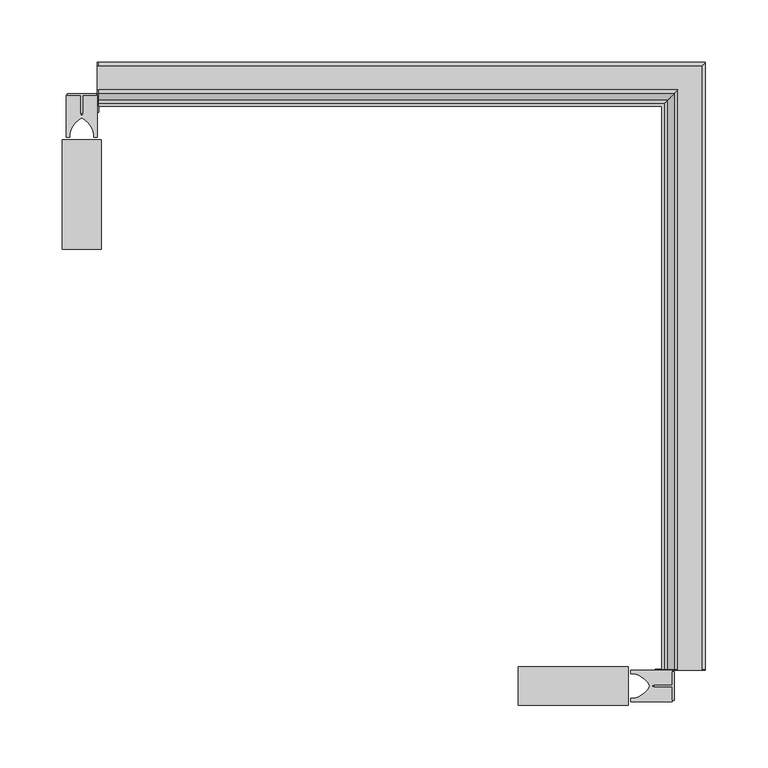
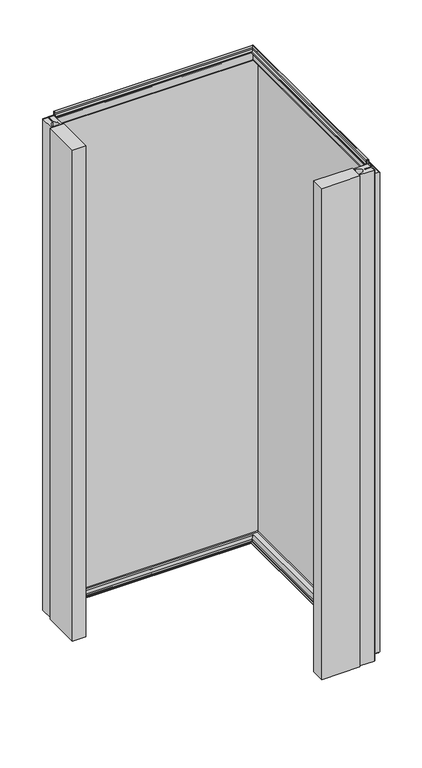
"""IFC4 building model written with IfcOpenShell, lengths in millimetres: plate geometry, Угловой модуль Fronttop : Угловой модуль Fronttop 150/1200."""

from ifc_helpers import new_model, si_unit, point, frame, frame_2d, origin, origin_with_axes, place, context, project, spatial, polyline, circle_curve, ellipse_curve, trimmed, segment, composite_curve, outline, extrude, source, transform, mapped, element, save
from ifc_brep_helpers import plane_surface, cylinder_surface, revolved_surface, advanced_brep


def plate_e059e824(model_context):
    return source(origin(), model_context, "Body", "SolidModel", [
        extrude(outline(polyline([(225.0, -338.4948846), (225.0, -361.5051154), (223.5, -361.5051154), (223.5, -350.6502496), (209.0759655, -350.6502496), (209.0759655, -349.35), (223.5, -349.35), (223.5, -338.4948846), (225.0, -338.4948846)])), origin_with_axes(), (0.0, 0.0, 1.0), 1200.0),
        extrude(outline(composite_curve([segment(polyline([(223.5, -337.4998455), (223.5, -349.25), (207.5, -349.25), (207.5, -350.75), (223.5, -350.75), (223.5, -362.5001545), (190.0, -362.5001545), (190.0, -359.75), (192.5, -359.75)]), True, "CONTINUOUS"), segment(trimmed(circle_curve(frame_2d((189.3183984, -341.9661979)), 18.0661619), [point((192.5, -359.75))], [point((205.5, -350.0))], True, "CARTESIAN"), True, "CONTINUOUS"), segment(trimmed(circle_curve(frame_2d((189.3183984, -358.0338021)), 18.0661619), [point((205.5, -350.0))], [point((192.5, -340.25))], True, "CARTESIAN"), True, "CONTINUOUS"), segment(polyline([(192.5, -340.25), (190.0, -340.25), (190.0, -337.4998455), (223.5, -337.4998455)]), True, "CONTINUOUS")], self_intersect=False)), origin_with_axes(), (0.0, 0.0, 1.0), 1200.0),
        extrude(outline(polyline([(100.0, -365.5), (100.0, -334.5), (188.0, -334.5), (188.0, -365.5), (100.0, -365.5)])), origin_with_axes(), (0.0, 0.0, 1.0), 1200.0),
        extrude(outline(polyline([(-261.5051154, 125.0), (-238.4948846, 125.0), (-238.4948846, 123.5), (-249.3497504, 123.5), (-249.3497504, 109.0759655), (-250.65, 109.0759655), (-250.65, 123.5), (-261.5051154, 123.5), (-261.5051154, 125.0)])), origin_with_axes(), (0.0, 0.0, 1.0), 1200.0),
        extrude(outline(composite_curve([segment(polyline([(-262.5001545, 123.5), (-250.75, 123.5), (-250.75, 107.5), (-249.25, 107.5), (-249.25, 123.5), (-237.4998455, 123.5), (-237.4998455, 90.0), (-240.25, 90.0), (-240.25, 92.5)]), True, "CONTINUOUS"), segment(trimmed(circle_curve(frame_2d((-258.0338021, 89.3183984)), 18.0661619), [point((-240.25, 92.5))], [point((-250.0, 105.5))], True, "CARTESIAN"), True, "CONTINUOUS"), segment(trimmed(circle_curve(frame_2d((-241.9661979, 89.3183984)), 18.0661619), [point((-250.0, 105.5))], [point((-259.75, 92.5))], True, "CARTESIAN"), True, "CONTINUOUS"), segment(polyline([(-259.75, 92.5), (-259.75, 90.0), (-262.5001545, 90.0), (-262.5001545, 123.5)]), True, "CONTINUOUS")], self_intersect=False)), origin_with_axes(), (0.0, 0.0, 1.0), 1200.0),
        extrude(outline(polyline([(-234.5, 0.0), (-265.5, 0.0), (-265.5, 88.0), (-234.5, 88.0), (-234.5, 0.0)])), origin_with_axes(), (0.0, 0.0, 1.0), 1200.0),
        advanced_brep(
        [(-236.5, 124.0, 1208.0), (-236.5, 121.0, 1208.0), (-236.5, 121.0, 1204.0), (-236.5, 117.0, 1200.0), (-236.5, 115.0, 1200.0), (-236.5, 115.0, 1201.0), (-236.5, 117.0, 1201.0), (-236.5, 120.0, 1204.0), (-236.5, 120.0, 1208.0), (-236.5, 125.0, 1208.0), (-236.5, 125.0, 1200.0), (-236.5, 124.0, 1200.0), (-236.5, 115.0, 2.0), (215.0, 115.0, 2.0), (215.0, 115.0, 3.0), (-236.5, 115.0, 3.0), (215.0, -336.5, 3.0), (217.0, -336.5, 3.0), (217.0, 117.0, 3.0), (-236.5, 117.0, 3.0), (218.0, 118.0, 4.0), (-236.5, 118.0, 4.0), (218.0, 118.0, 8.0), (-236.5, 118.0, 8.0), (227.0, 127.0, 8.0), (-236.5, 127.0, 8.0), (227.0, 127.0, 0.0), (-236.5, 127.0, 0.0), (229.0, 129.0, -2.0), (-236.5, 129.0, -2.0), (229.0, -336.5, -2.0), (247.0, -336.5, -2.0), (247.0, 147.0, -2.0), (-236.5, 147.0, -2.0), (249.0, 149.0, 0.0), (-236.5, 149.0, 0.0), (249.0, 149.0, 1169.0), (-236.5, 149.0, 1169.0), (247.0, 147.0, 1171.0), (-236.5, 147.0, 1171.0), (247.0, -336.5, 1171.0), (228.0, -336.5, 1171.0), (228.0, 128.0, 1171.0), (-236.5, 128.0, 1171.0), (224.0, 124.0, 1175.0), (-236.5, 124.0, 1175.0), (224.0, 124.0, 1208.0), (221.0, 121.0, 1208.0), (221.0, 121.0, 1204.0), (217.0, 117.0, 1200.0), (217.0, -336.5, 1200.0), (215.0, -336.5, 1200.0), (215.0, 115.0, 1200.0), (215.0, 115.0, 1201.0), (215.0, -336.5, 1201.0), (217.0, -336.5, 1201.0), (217.0, 117.0, 1201.0), (220.0, 120.0, 1204.0), (220.0, 120.0, 1208.0), (225.0, 125.0, 1208.0), (225.0, 125.0, 1175.0), (-236.5, 125.0, 1175.0), (-237.5, 125.0, 1175.0), (-237.5, 125.0, 1200.0), (228.0, 128.0, 1172.0), (-236.5, 128.0, 1172.0), (228.0, -336.5, 1172.0), (228.0, -337.5, 1172.0), (247.0, -337.5, 1172.0), (247.0, -336.5, 1172.0), (247.0, 147.0, 1172.0), (-236.5, 147.0, 1172.0), (-237.5, 147.0, 1172.0), (-237.5, 128.0, 1172.0), (250.0, 150.0, 1169.0), (-236.5, 150.0, 1169.0), (250.0, 150.0, 0.0), (-236.5, 150.0, 0.0), (-237.5, 150.0, 0.0), (-237.5, 150.0, 1169.0), (247.0, 147.0, -3.0), (-236.5, 147.0, -3.0), (247.0, -336.5, -3.0), (247.0, -337.5, -3.0), (225.0, -337.5, -3.0), (225.0, -336.5, -3.0), (229.0, -336.5, -3.0), (229.0, 129.0, -3.0), (-236.5, 129.0, -3.0), (-236.5, 125.0, -3.0), (-237.5, 125.0, -3.0), (-237.5, 147.0, -3.0), (226.0, 126.0, 0.0), (-236.5, 126.0, 0.0), (226.0, 126.0, 8.0), (-236.5, 126.0, 8.0), (219.0, 119.0, 8.0), (-236.5, 119.0, 8.0), (219.0, 119.0, 4.0), (-236.5, 119.0, 4.0), (217.0, 117.0, 2.0), (-236.5, 117.0, 2.0), (217.0, -336.5, 2.0), (215.0, -336.5, 2.0), (221.0, -336.5, 1204.0), (221.0, -336.5, 1208.0), (224.0, -336.5, 1208.0), (224.0, -336.5, 1200.0), (225.0, -336.5, 1200.0), (225.0, -336.5, 1208.0), (220.0, -336.5, 1208.0), (220.0, -336.5, 1204.0), (218.0, -336.5, 4.0), (218.0, -336.5, 8.0), (227.0, -336.5, 8.0), (227.0, -336.5, 0.0), (249.0, -336.5, 0.0), (249.0, -336.5, 1169.0), (224.0, -336.5, 1175.0), (225.0, -337.5, 1200.0), (225.0, -337.5, 1175.0), (225.0, -336.5, 1175.0), (250.0, -336.5, 1169.0), (250.0, -337.5, 1169.0), (250.0, -337.5, 0.0), (250.0, -336.5, 0.0), (226.0, -336.5, 0.0), (226.0, -336.5, 8.0), (219.0, -336.5, 8.0), (219.0, -336.5, 4.0), (-236.5, 110.0, 1200.0), (-236.5, 110.0, 0.0), (-236.5, 125.0, 0.0), (-237.5, 125.0, 0.0), (-237.5, 110.0, 0.0), (-237.5, 110.0, 1200.0), (210.0, -336.5, 0.0), (210.0, -336.5, 1200.0), (225.0, -336.5, 0.0), (210.0, -337.5, 0.0), (225.0, -337.5, 0.0), (210.0, -337.5, 1200.0)],
        [
            (0, 1, circle_curve(frame((-236.5, 122.5, 1208.0), z_axis=(1.0, 0.0, 0.0), x_axis=(0.0, -1.0, 0.0)), 1.5)),
            (1, 2),
            (2, 3, circle_curve(frame((-236.5, 117.0, 1204.0), z_axis=(-1.0, 0.0, 0.0), x_axis=(0.0, -1.0, 0.0)), 4.0)),
            (3, 4),
            (4, 5),
            (5, 6),
            (6, 7, circle_curve(frame((-236.5, 117.0, 1204.0), z_axis=(1.0, 0.0, 0.0), x_axis=(0.0, -1.0, 0.0)), 3.0)),
            (7, 8),
            (8, 9, circle_curve(frame((-236.5, 122.5, 1208.0), z_axis=(-1.0, 0.0, 0.0), x_axis=(0.0, -1.0, 0.0)), 2.5)),
            (9, 10),
            (10, 11),
            (11, 0),
            (12, 13),
            (13, 14),
            (14, 15),
            (15, 12),
            (14, 16),
            (16, 17),
            (17, 18),
            (18, 19),
            (19, 15),
            (18, 20, ellipse_curve(frame((217.0, 117.0, 4.0), z_axis=(0.7071067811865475, -0.7071067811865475, 0.0), x_axis=(0.7071067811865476, 0.7071067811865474, 0.0)), 1.4142136, 1.0)),
            (20, 21),
            (21, 19, circle_curve(frame((-236.5, 117.0, 4.0), z_axis=(-1.0, 0.0, 0.0), x_axis=(0.0, -1.0, 0.0)), 1.0)),
            (20, 22),
            (22, 23),
            (23, 21),
            (22, 24, ellipse_curve(frame((222.5, 122.5, 8.0), z_axis=(-0.7071067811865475, 0.7071067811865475, 0.0), x_axis=(-0.7071067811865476, -0.7071067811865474, 0.0)), 6.363961, 4.5)),
            (24, 25),
            (25, 23, circle_curve(frame((-236.5, 122.5, 8.0), z_axis=(1.0, 0.0, 0.0), x_axis=(0.0, -1.0, 0.0)), 4.5)),
            (24, 26),
            (26, 27),
            (27, 25),
            (26, 28, ellipse_curve(frame((229.0, 129.0, 0.0), z_axis=(0.7071067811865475, -0.7071067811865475, 0.0), x_axis=(0.7071067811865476, 0.7071067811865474, 0.0)), 2.8284271, 2.0)),
            (28, 29),
            (29, 27, circle_curve(frame((-236.5, 129.0, 0.0), z_axis=(-1.0, 0.0, 0.0), x_axis=(0.0, -1.0, 0.0)), 2.0)),
            (28, 30),
            (30, 31),
            (31, 32),
            (32, 33),
            (33, 29),
            (32, 34, ellipse_curve(frame((247.0, 147.0, 0.0), z_axis=(0.7071067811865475, -0.7071067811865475, 0.0), x_axis=(0.7071067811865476, 0.7071067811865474, 0.0)), 2.8284271, 2.0)),
            (34, 35),
            (35, 33, circle_curve(frame((-236.5, 147.0, 0.0), z_axis=(-1.0, 0.0, 0.0), x_axis=(0.0, -1.0, 0.0)), 2.0)),
            (34, 36),
            (36, 37),
            (37, 35),
            (36, 38, ellipse_curve(frame((247.0, 147.0, 1169.0), z_axis=(0.7071067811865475, -0.7071067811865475, 0.0), x_axis=(0.7071067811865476, 0.7071067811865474, 0.0)), 2.8284271, 2.0)),
            (38, 39),
            (39, 37, circle_curve(frame((-236.5, 147.0, 1169.0), z_axis=(-1.0, 0.0, 0.0), x_axis=(0.0, -1.0, 0.0)), 2.0)),
            (38, 40),
            (40, 41),
            (41, 42),
            (42, 43),
            (43, 39),
            (42, 44, ellipse_curve(frame((228.0, 128.0, 1175.0), z_axis=(-0.7071067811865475, 0.7071067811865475, 0.0), x_axis=(-0.7071067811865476, -0.7071067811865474, 0.0)), 5.6568542, 4.0)),
            (44, 45),
            (45, 43, circle_curve(frame((-236.5, 128.0, 1175.0), z_axis=(1.0, 0.0, 0.0), x_axis=(0.0, -1.0, 0.0)), 4.0)),
            (44, 46),
            (46, 0),
            (11, 45),
            (46, 47, ellipse_curve(frame((222.5, 122.5, 1208.0), z_axis=(0.7071067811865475, -0.7071067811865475, 0.0), x_axis=(0.7071067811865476, 0.7071067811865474, 0.0)), 2.1213203, 1.5)),
            (47, 1),
            (47, 48),
            (48, 2),
            (48, 49, ellipse_curve(frame((217.0, 117.0, 1204.0), z_axis=(-0.7071067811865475, 0.7071067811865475, 0.0), x_axis=(-0.7071067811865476, -0.7071067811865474, 0.0)), 5.6568542, 4.0)),
            (49, 3),
            (49, 50),
            (50, 51),
            (51, 52),
            (52, 4),
            (4, 3),
            (52, 53),
            (53, 5),
            (53, 54),
            (54, 55),
            (55, 56),
            (56, 6),
            (56, 57, ellipse_curve(frame((217.0, 117.0, 1204.0), z_axis=(0.7071067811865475, -0.7071067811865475, 0.0), x_axis=(0.7071067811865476, 0.7071067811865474, 0.0)), 4.2426407, 3.0)),
            (57, 7),
            (57, 58),
            (58, 8),
            (58, 59, ellipse_curve(frame((222.5, 122.5, 1208.0), z_axis=(-0.7071067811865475, 0.7071067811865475, 0.0), x_axis=(-0.7071067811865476, -0.7071067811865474, 0.0)), 3.5355339, 2.5)),
            (59, 9),
            (59, 60),
            (60, 61),
            (61, 62),
            (62, 63),
            (63, 10),
            (60, 64, ellipse_curve(frame((228.0, 128.0, 1175.0), z_axis=(0.7071067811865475, -0.7071067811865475, 0.0), x_axis=(0.7071067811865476, 0.7071067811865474, 0.0)), 4.2426407, 3.0)),
            (64, 65),
            (65, 61, circle_curve(frame((-236.5, 128.0, 1175.0), z_axis=(-1.0, 0.0, 0.0), x_axis=(0.0, -1.0, 0.0)), 3.0)),
            (64, 66),
            (66, 67),
            (67, 68),
            (68, 69),
            (69, 70),
            (70, 71),
            (71, 72),
            (72, 73),
            (73, 65),
            (70, 74, ellipse_curve(frame((247.0, 147.0, 1169.0), z_axis=(-0.7071067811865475, 0.7071067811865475, 0.0), x_axis=(-0.7071067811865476, -0.7071067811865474, 0.0)), 4.2426407, 3.0)),
            (74, 75),
            (75, 71, circle_curve(frame((-236.5, 147.0, 1169.0), z_axis=(1.0, 0.0, 0.0), x_axis=(0.0, -1.0, 0.0)), 3.0)),
            (74, 76),
            (76, 77),
            (77, 78),
            (78, 79),
            (79, 75),
            (76, 80, ellipse_curve(frame((247.0, 147.0, 0.0), z_axis=(-0.7071067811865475, 0.7071067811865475, 0.0), x_axis=(-0.7071067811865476, -0.7071067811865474, 0.0)), 4.2426407, 3.0)),
            (80, 81),
            (81, 77, circle_curve(frame((-236.5, 147.0, 0.0), z_axis=(1.0, 0.0, 0.0), x_axis=(0.0, -1.0, 0.0)), 3.0)),
            (80, 82),
            (82, 83),
            (83, 84),
            (84, 85),
            (85, 86),
            (86, 87),
            (87, 88),
            (88, 89),
            (89, 90),
            (90, 91),
            (91, 81),
            (87, 92, ellipse_curve(frame((229.0, 129.0, 0.0), z_axis=(-0.7071067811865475, 0.7071067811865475, 0.0), x_axis=(-0.7071067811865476, -0.7071067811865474, 0.0)), 4.2426407, 3.0)),
            (92, 93),
            (93, 88, circle_curve(frame((-236.5, 129.0, 0.0), z_axis=(1.0, 0.0, 0.0), x_axis=(0.0, -1.0, 0.0)), 3.0)),
            (92, 94),
            (94, 95),
            (95, 93),
            (94, 96, ellipse_curve(frame((222.5, 122.5, 8.0), z_axis=(0.7071067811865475, -0.7071067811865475, 0.0), x_axis=(0.7071067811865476, 0.7071067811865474, 0.0)), 4.9497475, 3.5)),
            (96, 97),
            (97, 95, circle_curve(frame((-236.5, 122.5, 8.0), z_axis=(-1.0, 0.0, 0.0), x_axis=(0.0, -1.0, 0.0)), 3.5)),
            (96, 98),
            (98, 99),
            (99, 97),
            (98, 100, ellipse_curve(frame((217.0, 117.0, 4.0), z_axis=(-0.7071067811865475, 0.7071067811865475, 0.0), x_axis=(-0.7071067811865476, -0.7071067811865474, 0.0)), 2.8284271, 2.0)),
            (100, 101),
            (101, 99, circle_curve(frame((-236.5, 117.0, 4.0), z_axis=(1.0, 0.0, 0.0), x_axis=(0.0, -1.0, 0.0)), 2.0)),
            (12, 101),
            (100, 102),
            (102, 103),
            (103, 13),
            (54, 51),
            (51, 50),
            (50, 104, circle_curve(frame((217.0, -336.5, 1204.0), z_axis=(0.0, -1.0, 0.0), x_axis=(-1.0, 0.0, 0.0)), 4.0)),
            (104, 105),
            (105, 106, circle_curve(frame((222.5, -336.5, 1208.0), z_axis=(0.0, 1.0, 0.0), x_axis=(-1.0, 0.0, 0.0)), 1.5)),
            (106, 107),
            (107, 108),
            (108, 109),
            (109, 110, circle_curve(frame((222.5, -336.5, 1208.0), z_axis=(0.0, -1.0, 0.0), x_axis=(-1.0, 0.0, 0.0)), 2.5)),
            (110, 111),
            (111, 55, circle_curve(frame((217.0, -336.5, 1204.0), z_axis=(0.0, 1.0, 0.0), x_axis=(-1.0, 0.0, 0.0)), 3.0)),
            (103, 16),
            (17, 112, circle_curve(frame((217.0, -336.5, 4.0), z_axis=(0.0, -1.0, 0.0), x_axis=(-1.0, 0.0, 0.0)), 1.0)),
            (112, 20),
            (112, 113),
            (113, 22),
            (113, 114, circle_curve(frame((222.5, -336.5, 8.0), z_axis=(0.0, 1.0, 0.0), x_axis=(-1.0, 0.0, 0.0)), 4.5)),
            (114, 24),
            (114, 115),
            (115, 26),
            (115, 30, circle_curve(frame((229.0, -336.5, 0.0), z_axis=(0.0, -1.0, 0.0), x_axis=(-1.0, 0.0, 0.0)), 2.0)),
            (31, 116, circle_curve(frame((247.0, -336.5, 0.0), z_axis=(0.0, -1.0, 0.0), x_axis=(-1.0, 0.0, 0.0)), 2.0)),
            (116, 34),
            (116, 117),
            (117, 36),
            (117, 40, circle_curve(frame((247.0, -336.5, 1169.0), z_axis=(0.0, -1.0, 0.0), x_axis=(-1.0, 0.0, 0.0)), 2.0)),
            (41, 118, circle_curve(frame((228.0, -336.5, 1175.0), z_axis=(0.0, 1.0, 0.0), x_axis=(-1.0, 0.0, 0.0)), 4.0)),
            (118, 44),
            (118, 107),
            (106, 46),
            (105, 47),
            (104, 48),
            (111, 57),
            (110, 58),
            (109, 59),
            (108, 119),
            (119, 120),
            (120, 121),
            (121, 60),
            (121, 66, circle_curve(frame((228.0, -336.5, 1175.0), z_axis=(0.0, -1.0, 0.0), x_axis=(-1.0, 0.0, 0.0)), 3.0)),
            (69, 122, circle_curve(frame((247.0, -336.5, 1169.0), z_axis=(0.0, 1.0, 0.0), x_axis=(-1.0, 0.0, 0.0)), 3.0)),
            (122, 74),
            (122, 123),
            (123, 124),
            (124, 125),
            (125, 76),
            (125, 82, circle_curve(frame((247.0, -336.5, 0.0), z_axis=(0.0, 1.0, 0.0), x_axis=(-1.0, 0.0, 0.0)), 3.0)),
            (86, 126, circle_curve(frame((229.0, -336.5, 0.0), z_axis=(0.0, 1.0, 0.0), x_axis=(-1.0, 0.0, 0.0)), 3.0)),
            (126, 92),
            (126, 127),
            (127, 94),
            (127, 128, circle_curve(frame((222.5, -336.5, 8.0), z_axis=(0.0, -1.0, 0.0), x_axis=(-1.0, 0.0, 0.0)), 3.5)),
            (128, 96),
            (128, 129),
            (129, 98),
            (129, 102, circle_curve(frame((217.0, -336.5, 4.0), z_axis=(0.0, 1.0, 0.0), x_axis=(-1.0, 0.0, 0.0)), 2.0)),
            (130, 131),
            (131, 132),
            (132, 89),
            (11, 3),
            (4, 130),
            (62, 73, circle_curve(frame((-237.5, 128.0, 1175.0), z_axis=(1.0, 0.0, 0.0), x_axis=(0.0, 1.0, 0.0)), 3.0)),
            (72, 79, circle_curve(frame((-237.5, 147.0, 1169.0), z_axis=(-1.0, 0.0, 0.0), x_axis=(0.0, 1.0, 0.0)), 3.0)),
            (78, 91, circle_curve(frame((-237.5, 147.0, 0.0), z_axis=(-1.0, 0.0, 0.0), x_axis=(0.0, 1.0, 0.0)), 3.0)),
            (90, 133),
            (133, 134),
            (134, 135),
            (135, 63),
            (135, 130),
            (134, 131),
            (133, 132),
            (136, 137),
            (137, 51),
            (50, 107),
            (85, 138),
            (138, 136),
            (139, 140),
            (140, 84),
            (83, 124, circle_curve(frame((247.0, -337.5, 0.0), z_axis=(0.0, -1.0, 0.0), x_axis=(-1.0, 0.0, 0.0)), 3.0)),
            (123, 68, circle_curve(frame((247.0, -337.5, 1169.0), z_axis=(0.0, -1.0, 0.0), x_axis=(-1.0, 0.0, 0.0)), 3.0)),
            (67, 120, circle_curve(frame((228.0, -337.5, 1175.0), z_axis=(0.0, 1.0, 0.0), x_axis=(-1.0, 0.0, 0.0)), 3.0)),
            (119, 141),
            (141, 139),
            (138, 140),
            (139, 136),
            (137, 141),
        ],
        [
            plane_surface(frame((-236.5, 0.0, 0.0), z_axis=(-1.0, 0.0, 0.0), x_axis=(0.0, 0.0, 1.0))),
            plane_surface(frame((-236.5, 115.0, 2.0), z_axis=(0.0, -1.0, 0.0), x_axis=(1.0, 0.0, 0.0))),
            plane_surface(frame((-236.5, 115.0, 3.0), z_axis=(0.0, 0.0, 1.0), x_axis=(1.0, 0.0, 0.0))),
            revolved_surface(polyline([(218.00000002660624, 116.0, 4.0), (-236.5, 116.0, 4.0)]), (-236.5, 117.0, 4.0), (1.0, 0.0, 0.0)),
            plane_surface(frame((-236.5, 118.0, 4.0), z_axis=(0.0, -1.0, 0.0), x_axis=(1.0, 0.0, 0.0))),
            cylinder_surface(frame((-236.5, 122.5, 8.0), z_axis=(-1.0, 0.0, 0.0), x_axis=(0.0, -1.0, 0.0)), 4.5),
            plane_surface(frame((-236.5, 127.0, 8.0), z_axis=(0.0, 1.0, 0.0), x_axis=(1.0, 0.0, 0.0))),
            revolved_surface(polyline([(230.99999998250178, 127.0, 0.0), (-236.5, 127.0, 0.0)]), (-236.5, 129.0, 0.0), (1.0, 0.0, 0.0)),
            plane_surface(frame((-236.5, 129.0, -2.0), z_axis=(0.0, 0.0, 1.0), x_axis=(1.0, 0.0, 0.0))),
            revolved_surface(polyline([(249.0, 145.0, 0.0), (-236.5, 145.0, 0.0)]), (-236.5, 147.0, 0.0), (1.0, 0.0, 0.0)),
            plane_surface(frame((-236.5, 149.0, 0.0), z_axis=(0.0, -1.0, 0.0), x_axis=(1.0, 0.0, 0.0))),
            revolved_surface(polyline([(249.0, 145.0, 1169.0), (-236.5, 145.0, 1169.0)]), (-236.5, 147.0, 1169.0), (1.0, 0.0, 0.0)),
            plane_surface(frame((-236.5, 147.0, 1171.0), z_axis=(0.0, 0.0, -1.0), x_axis=(1.0, 0.0, 0.0))),
            cylinder_surface(frame((-236.5, 128.0, 1175.0), z_axis=(-1.0, 0.0, 0.0), x_axis=(0.0, -1.0, 0.0)), 4.0),
            plane_surface(frame((-236.5, 124.0, 1175.0), z_axis=(0.0, -1.0, 0.0), x_axis=(1.0, 0.0, 0.0))),
            revolved_surface(polyline([(224.0, 121.0, 1208.0), (-236.5, 121.0, 1208.0)]), (-236.5, 122.5, 1208.0), (1.0, 0.0, 0.0)),
            plane_surface(frame((-236.5, 121.0, 1208.0), z_axis=(0.0, 1.0, 0.0), x_axis=(1.0, 0.0, 0.0))),
            cylinder_surface(frame((-236.5, 117.0, 1204.0), z_axis=(-1.0, 0.0, 0.0), x_axis=(0.0, -1.0, 0.0)), 4.0),
            plane_surface(frame((-236.5, 117.0, 1200.0), z_axis=(0.0, 0.0, -1.0), x_axis=(1.0, 0.0, 0.0))),
            plane_surface(frame((-236.5, 115.0, 1200.0), z_axis=(0.0, -1.0, 0.0), x_axis=(1.0, 0.0, 0.0))),
            plane_surface(frame((-236.5, 115.0, 1201.0), z_axis=(0.0, 0.0, 1.0), x_axis=(1.0, 0.0, 0.0))),
            revolved_surface(polyline([(220.00000000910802, 114.0, 1204.0), (-236.5, 114.0, 1204.0)]), (-236.5, 117.0, 1204.0), (1.0, 0.0, 0.0)),
            plane_surface(frame((-236.5, 120.0, 1204.0), z_axis=(0.0, -1.0, 0.0), x_axis=(1.0, 0.0, 0.0))),
            cylinder_surface(frame((-236.5, 122.5, 1208.0), z_axis=(-1.0, 0.0, 0.0), x_axis=(0.0, -1.0, 0.0)), 2.5),
            plane_surface(frame((-236.5, 125.0, 1208.0), z_axis=(0.0, 1.0, 0.0), x_axis=(1.0, 0.0, 0.0))),
            revolved_surface(polyline([(231.00000000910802, 125.0, 1175.0), (-236.5, 125.0, 1175.0)]), (-236.5, 128.0, 1175.0), (1.0, 0.0, 0.0)),
            plane_surface(frame((-236.5, 128.0, 1172.0), z_axis=(0.0, 0.0, 1.0), x_axis=(1.0, 0.0, 0.0))),
            cylinder_surface(frame((-236.5, 147.0, 1169.0), z_axis=(-1.0, 0.0, 0.0), x_axis=(0.0, -1.0, 0.0)), 3.0),
            plane_surface(frame((-236.5, 150.0, 1169.0), z_axis=(0.0, 1.0, 0.0), x_axis=(1.0, 0.0, 0.0))),
            cylinder_surface(frame((-236.5, 147.0, 0.0), z_axis=(-1.0, 0.0, 0.0), x_axis=(0.0, -1.0, 0.0)), 3.0),
            plane_surface(frame((-236.5, 147.0, -3.0), z_axis=(0.0, 0.0, -1.0), x_axis=(1.0, 0.0, 0.0))),
            cylinder_surface(frame((-236.5, 129.0, 0.0), z_axis=(-1.0, 0.0, 0.0), x_axis=(0.0, -1.0, 0.0)), 3.0),
            plane_surface(frame((-236.5, 126.0, 0.0), z_axis=(0.0, -1.0, 0.0), x_axis=(1.0, 0.0, 0.0))),
            revolved_surface(polyline([(226.00000002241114, 119.0, 8.0), (-236.5, 119.0, 8.0)]), (-236.5, 122.5, 8.0), (1.0, 0.0, 0.0)),
            plane_surface(frame((-236.5, 119.0, 8.0), z_axis=(0.0, 1.0, 0.0), x_axis=(1.0, 0.0, 0.0))),
            cylinder_surface(frame((-236.5, 117.0, 4.0), z_axis=(-1.0, 0.0, 0.0), x_axis=(0.0, -1.0, 0.0)), 2.0),
            plane_surface(frame((-236.5, 117.0, 2.0), z_axis=(0.0, 0.0, -1.0), x_axis=(1.0, 0.0, 0.0))),
            plane_surface(frame((100.0, -336.5, 0.0), z_axis=(0.0, -1.0, 0.0), x_axis=(0.0, 0.0, 1.0))),
            plane_surface(frame((215.0, 115.0, 2.0), z_axis=(-1.0, 0.0, 0.0), x_axis=(0.0, -1.0, 0.0))),
            revolved_surface(polyline([(216.0, -336.5, 4.0), (216.0, 118.00000002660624, 4.0)]), (217.0, 0.0, 4.0), (0.0, -1.0, 0.0)),
            plane_surface(frame((218.0, 118.0, 4.0), z_axis=(-1.0, 0.0, 0.0), x_axis=(0.0, -1.0, 0.0))),
            cylinder_surface(frame((222.5, 0.0, 8.0), z_axis=(0.0, 1.0, 0.0), x_axis=(-1.0, 0.0, 0.0)), 4.5),
            plane_surface(frame((227.0, 127.0, 8.0), z_axis=(1.0, 0.0, 0.0), x_axis=(0.0, -1.0, 0.0))),
            revolved_surface(polyline([(227.0, -336.5, 0.0), (227.0, 130.9999999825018, 0.0)]), (229.0, 0.0, 0.0), (0.0, -1.0, 0.0)),
            revolved_surface(polyline([(245.0, -336.5, 0.0), (245.0, 149.0, 0.0)]), (247.0, 0.0, 0.0), (0.0, -1.0, 0.0)),
            plane_surface(frame((249.0, 149.0, 0.0), z_axis=(-1.0, 0.0, 0.0), x_axis=(0.0, -1.0, 0.0))),
            revolved_surface(polyline([(245.0, -336.5, 1169.0), (245.0, 149.0, 1169.0)]), (247.0, 0.0, 1169.0), (0.0, -1.0, 0.0)),
            cylinder_surface(frame((228.0, 0.0, 1175.0), z_axis=(0.0, 1.0, 0.0), x_axis=(-1.0, 0.0, 0.0)), 4.0),
            plane_surface(frame((224.0, 124.0, 1175.0), z_axis=(-1.0, 0.0, 0.0), x_axis=(0.0, -1.0, 0.0))),
            revolved_surface(polyline([(221.0, -336.5, 1208.0), (221.0, 124.0, 1208.0)]), (222.5, 0.0, 1208.0), (0.0, -1.0, 0.0)),
            plane_surface(frame((221.0, 121.0, 1208.0), z_axis=(1.0, 0.0, 0.0), x_axis=(0.0, -1.0, 0.0))),
            cylinder_surface(frame((217.0, 0.0, 1204.0), z_axis=(0.0, 1.0, 0.0), x_axis=(-1.0, 0.0, 0.0)), 4.0),
            plane_surface(frame((215.0, 115.0, 1200.0), z_axis=(-1.0, 0.0, 0.0), x_axis=(0.0, -1.0, 0.0))),
            revolved_surface(polyline([(214.0, -336.5, 1204.0), (214.0, 120.00000000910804, 1204.0)]), (217.0, 0.0, 1204.0), (0.0, -1.0, 0.0)),
            plane_surface(frame((220.0, 120.0, 1204.0), z_axis=(-1.0, 0.0, 0.0), x_axis=(0.0, -1.0, 0.0))),
            cylinder_surface(frame((222.5, 0.0, 1208.0), z_axis=(0.0, 1.0, 0.0), x_axis=(-1.0, 0.0, 0.0)), 2.5),
            plane_surface(frame((225.0, 125.0, 1208.0), z_axis=(1.0, 0.0, 0.0), x_axis=(0.0, -1.0, 0.0))),
            revolved_surface(polyline([(225.0, -336.5, 1175.0), (225.0, 131.00000000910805, 1175.0)]), (228.0, 0.0, 1175.0), (0.0, -1.0, 0.0)),
            cylinder_surface(frame((247.0, 0.0, 1169.0), z_axis=(0.0, 1.0, 0.0), x_axis=(-1.0, 0.0, 0.0)), 3.0),
            plane_surface(frame((250.0, 150.0, 1169.0), z_axis=(1.0, 0.0, 0.0), x_axis=(0.0, -1.0, 0.0))),
            cylinder_surface(frame((247.0, 0.0, 0.0), z_axis=(0.0, 1.0, 0.0), x_axis=(-1.0, 0.0, 0.0)), 3.0),
            cylinder_surface(frame((229.0, 0.0, 0.0), z_axis=(0.0, 1.0, 0.0), x_axis=(-1.0, 0.0, 0.0)), 3.0),
            plane_surface(frame((226.0, 126.0, 0.0), z_axis=(-1.0, 0.0, 0.0), x_axis=(0.0, -1.0, 0.0))),
            revolved_surface(polyline([(219.0, -336.5, 8.0), (219.0, 126.00000002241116, 8.0)]), (222.5, 0.0, 8.0), (0.0, -1.0, 0.0)),
            plane_surface(frame((219.0, 119.0, 8.0), z_axis=(1.0, 0.0, 0.0), x_axis=(0.0, -1.0, 0.0))),
            cylinder_surface(frame((217.0, 0.0, 4.0), z_axis=(0.0, 1.0, 0.0), x_axis=(-1.0, 0.0, 0.0)), 2.0),
            plane_surface(frame((-236.5, 125.0, 1200.0), z_axis=(1.0, 0.0, 0.0), x_axis=(0.0, -1.0, 0.0))),
            plane_surface(frame((-237.5, 125.0, 1200.0), z_axis=(-1.0, 0.0, 0.0), x_axis=(0.0, 1.0, 0.0))),
            plane_surface(frame((-236.5, 125.0, 1200.0), z_axis=(0.0, 0.0, 1.0), x_axis=(-1.0, 0.0, 0.0))),
            plane_surface(frame((-236.5, 110.0, 1200.0), z_axis=(0.0, -1.0, 0.0), x_axis=(-1.0, 0.0, 0.0))),
            plane_surface(frame((-236.5, 110.0, 0.0), z_axis=(0.0, 0.0, -1.0), x_axis=(-1.0, 0.0, 0.0))),
            plane_surface(frame((-236.5, 125.0, 0.0), z_axis=(0.0, -1.0, 0.0), x_axis=(-1.0, 0.0, 0.0))),
            cylinder_surface(frame((-237.5, 147.0, 0.0), z_axis=(1.0, 0.0, 0.0), x_axis=(0.0, 1.0, 0.0)), 3.0),
            cylinder_surface(frame((-237.5, 147.0, 1169.0), z_axis=(1.0, 0.0, 0.0), x_axis=(0.0, 1.0, 0.0)), 3.0),
            revolved_surface(polyline([(-237.5, 131.0, 1175.0), (-236.5, 131.0, 1175.0)]), (-237.5, 128.0, 1175.0), (-1.0, 0.0, 0.0)),
            plane_surface(frame((210.0, -336.5, 1200.0), z_axis=(0.0, 1.0, 0.0), x_axis=(0.0, 0.0, 1.0))),
            plane_surface(frame((210.0, -337.5, 1200.0), z_axis=(0.0, -1.0, 0.0), x_axis=(0.0, 0.0, -1.0))),
            plane_surface(frame((225.0, -336.5, 0.0), z_axis=(0.0, 0.0, -1.0), x_axis=(0.0, -1.0, 0.0))),
            plane_surface(frame((225.0, -336.5, -3.0), z_axis=(-1.0, 0.0, 0.0), x_axis=(0.0, -1.0, 0.0))),
            cylinder_surface(frame((247.0, -337.5, 0.0), z_axis=(0.0, 1.0, 0.0), x_axis=(-1.0, 0.0, 0.0)), 3.0),
            cylinder_surface(frame((247.0, -337.5, 1169.0), z_axis=(0.0, 1.0, 0.0), x_axis=(-1.0, 0.0, 0.0)), 3.0),
            revolved_surface(polyline([(225.0, -337.5, 1175.0), (225.0, -336.5, 1175.0)]), (228.0, -337.5, 1175.0), (0.0, -1.0, 0.0)),
            plane_surface(frame((210.0, -336.5, 1200.0), z_axis=(0.0, 0.0, 1.0), x_axis=(0.0, -1.0, 0.0))),
            plane_surface(frame((210.0, -336.5, 0.0), z_axis=(-1.0, 0.0, 0.0), x_axis=(0.0, -1.0, 0.0))),
        ],
        [
            (0, [[1, 2, 3, 4, 5, 6, 7, 8, 9, 10, 11, 12]]),
            (1, [[13, 14, 15, 16]]),
            (2, [[-15, 17, 18, 19, 20, 21]]),
            (3, [[-20, 22, 23, 24]]),
            (4, [[-23, 25, 26, 27]]),
            (5, [[-26, 28, 29, 30]]),
            (6, [[-29, 31, 32, 33]]),
            (7, [[-32, 34, 35, 36]]),
            (8, [[-35, 37, 38, 39, 40, 41]]),
            (9, [[-40, 42, 43, 44]]),
            (10, [[-43, 45, 46, 47]]),
            (11, [[-46, 48, 49, 50]]),
            (12, [[-49, 51, 52, 53, 54, 55]]),
            (13, [[-54, 56, 57, 58]]),
            (14, [[-57, 59, 60, -12, 61]]),
            (15, [[-1, -60, 62, 63]]),
            (16, [[-2, -63, 64, 65]]),
            (17, [[-3, -65, 66, 67]]),
            (18, [[-67, 68, 69, 70, 71, 72]]),
            (19, [[-5, -71, 73, 74]]),
            (20, [[-6, -74, 75, 76, 77, 78]]),
            (21, [[-7, -78, 79, 80]]),
            (22, [[-8, -80, 81, 82]]),
            (23, [[-9, -82, 83, 84]]),
            (24, [[-84, 85, 86, 87, 88, 89, -10]]),
            (25, [[-86, 90, 91, 92]]),
            (26, [[-91, 93, 94, 95, 96, 97, 98, 99, 100, 101]]),
            (27, [[-98, 102, 103, 104]]),
            (28, [[-103, 105, 106, 107, 108, 109]]),
            (29, [[-106, 110, 111, 112]]),
            (30, [[-111, 113, 114, 115, 116, 117, 118, 119, 120, 121, 122, 123]]),
            (31, [[-119, 124, 125, 126]]),
            (32, [[-125, 127, 128, 129]]),
            (33, [[-128, 130, 131, 132]]),
            (34, [[-131, 133, 134, 135]]),
            (35, [[-134, 136, 137, 138]]),
            (36, [[-13, 139, -137, 140, 141, 142]]),
            (37, [[-76, 143, 144, 145, 146, 147, 148, 149, 150, 151, 152, 153]]),
            (38, [[-14, -142, 154, -17]]),
            (39, [[-19, 155, 156, -22]]),
            (40, [[-25, -156, 157, 158]]),
            (41, [[-28, -158, 159, 160]]),
            (42, [[-31, -160, 161, 162]]),
            (43, [[-34, -162, 163, -37]]),
            (44, [[-39, 164, 165, -42]]),
            (45, [[-45, -165, 166, 167]]),
            (46, [[-48, -167, 168, -51]]),
            (47, [[-53, 169, 170, -56]]),
            (48, [[-59, -170, 171, -148, 172]]),
            (49, [[-62, -172, -147, 173]]),
            (50, [[-64, -173, -146, 174]]),
            (51, [[-66, -174, -145, -68]]),
            (52, [[-70, -143, -75, -73]]),
            (53, [[-77, -153, 175, -79]]),
            (54, [[-81, -175, -152, 176]]),
            (55, [[-83, -176, -151, 177]]),
            (56, [[-85, -177, -150, 178, 179, 180, 181]]),
            (57, [[-90, -181, 182, -93]]),
            (58, [[-97, 183, 184, -102]]),
            (59, [[-105, -184, 185, 186, 187, 188]]),
            (60, [[-110, -188, 189, -113]]),
            (61, [[-118, 190, 191, -124]]),
            (62, [[-127, -191, 192, 193]]),
            (63, [[-130, -193, 194, 195]]),
            (64, [[-133, -195, 196, 197]]),
            (65, [[-136, -197, 198, -140]]),
            (66, [[199, 200, 201, -120, -126, -129, -132, -135, -138, -139, -16, -21, -24, -27, -30, -33, -36, -41, -44, -47, -50, -55, -58, -61, 202, -72, 203]]),
            (67, [[-88, 204, -100, 205, -108, 206, -122, 207, 208, 209, 210]]),
            (68, [[-210, 211, -203, -4, -202, -11, -89]]),
            (69, [[-199, -211, -209, 212]]),
            (70, [[-200, -212, -208, 213]]),
            (71, [[-201, -213, -207, -121]]),
            (72, [[-206, -107, -112, -123]]),
            (73, [[-205, -99, -104, -109]]),
            (74, [[-204, -87, -92, -101]]),
            (75, [[214, 215, -69, 216, -171, -169, -52, -168, -166, -164, -38, -163, -161, -159, -157, -155, -18, -154, -141, -198, -196, -194, -192, -190, -117, 217, 218]]),
            (76, [[219, 220, -115, 221, -186, 222, -95, 223, -179, 224, 225]]),
            (77, [[-218, 226, -219, 227]]),
            (78, [[-217, -116, -220, -226]]),
            (79, [[-221, -114, -189, -187]]),
            (80, [[-222, -185, -183, -96]]),
            (81, [[-223, -94, -182, -180]]),
            (82, [[-224, -178, -149, -216, -144, -215, 228]]),
            (83, [[-214, -227, -225, -228]]),
        ],
    ),
    ])


if __name__ == "__main__":
    model = new_model("IFC4")
    model_context = context("Model", 3, world=origin())
    ifc_project = project(units=[si_unit("LENGTHUNIT", "METRE", prefix="MILLI")], contexts=[model_context])
    site = spatial("IfcSite", under=ifc_project)
    building = spatial("IfcBuilding", under=site)
    placement = place(None, origin())
    plate_shape = plate_e059e824(model_context)
    element("IfcPlate", 1, ObjectType="Угловой модуль Fronttop : Угловой модуль Fronttop 150/1200", at=placement, inside=building, context=model_context, shape_type="MappedRepresentation", body=[
        mapped(plate_shape, transform((0.0, 0.0, 0.0), x_axis=(1.0, 0.0, 0.0), y_axis=(0.0, 1.0, 0.0), z_axis=(0.0, 0.0, 1.0))),
    ])
    save(model, "model.ifc")
